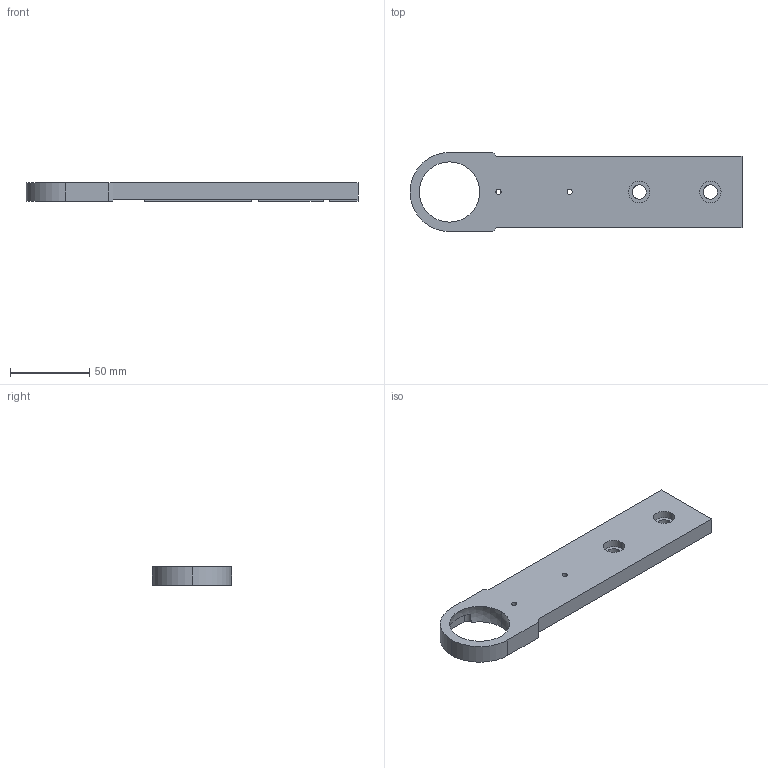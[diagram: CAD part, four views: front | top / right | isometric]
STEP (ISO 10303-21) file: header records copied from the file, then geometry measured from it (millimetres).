
FILE_DESCRIPTION (( 'STEP AP203' ), '1' );
FILE_NAME ('084.807.002.STEP', '2013-01-29T12:44:42', ( 'Alusic' ), ( 'Alusic' ), 'SwSTEP 2.0', 'SolidWorks 2011', '' );
FILE_SCHEMA (( 'CONFIG_CONTROL_DESIGN' ));
Length unit declared in the file: millimetre
Products named in the file (1): 084.807.002
Bounding box: 210 x 50 x 12 mm (x, y, z)
Volume: 87110.5 mm3; surface area: 24744.8 mm2
Topology: 1 solids, 1 shells, 52 faces, 155 edges, 102 vertices
Faces by surface type: plane 32, cylinder 18, sphere 2
Entity records: 1840 total; most frequent: CARTESIAN_POINT 316, DIRECTION 313, ORIENTED_EDGE 302, EDGE_CURVE 151, AXIS2_PLACEMENT_3D 113, VERTEX_POINT 100, VECTOR 87, LINE 87
